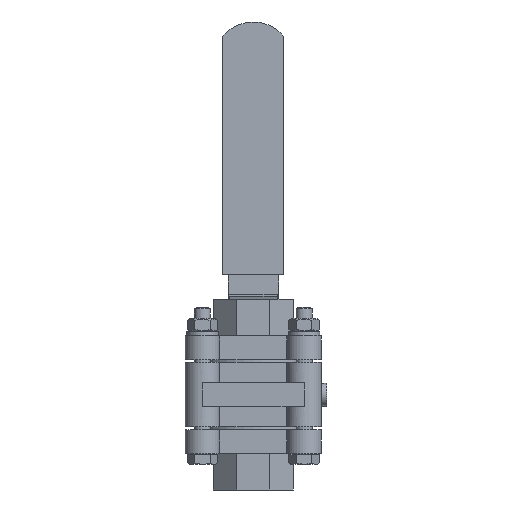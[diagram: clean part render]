
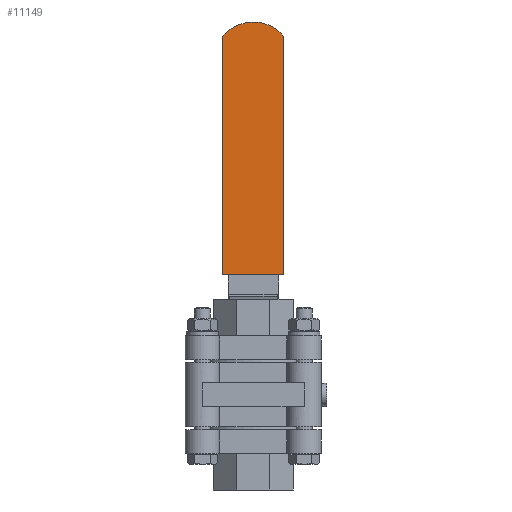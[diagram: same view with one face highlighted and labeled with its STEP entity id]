
A CAD part, front view. The second image highlights one B-rep face of the part: STEP entity #11149.
In plain terms, the highlighted planar face has unit normal (0, -1, 0).
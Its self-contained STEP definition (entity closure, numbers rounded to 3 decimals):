
#526=PLANE('',#11938);
#1166=FACE_OUTER_BOUND('',#1812,.T.);
#1812=EDGE_LOOP('',(#8307,#8308,#8309,#8310));
#2501=CIRCLE('',#11936,15.);
#3148=LINE('',#16863,#4096);
#3150=LINE('',#16867,#4098);
#3151=LINE('',#16868,#4099);
#4096=VECTOR('',#13621,10.);
#4098=VECTOR('',#13625,10.);
#4099=VECTOR('',#13626,10.);
#5073=VERTEX_POINT('',#16856);
#5074=VERTEX_POINT('',#16857);
#5075=VERTEX_POINT('',#16862);
#5076=VERTEX_POINT('',#16866);
#6296=EDGE_CURVE('',#5073,#5074,#2501,.T.);
#6299=EDGE_CURVE('',#5075,#5073,#3148,.T.);
#6301=EDGE_CURVE('',#5076,#5074,#3150,.T.);
#6302=EDGE_CURVE('',#5075,#5076,#3151,.T.);
#8307=ORIENTED_EDGE('',*,*,#6296,.T.);
#8308=ORIENTED_EDGE('',*,*,#6301,.F.);
#8309=ORIENTED_EDGE('',*,*,#6302,.F.);
#8310=ORIENTED_EDGE('',*,*,#6299,.T.);
#11149=ADVANCED_FACE('',(#1166),#526,.T.);
#11936=AXIS2_PLACEMENT_3D('',#16858,#13615,#13616);
#11938=AXIS2_PLACEMENT_3D('',#16865,#13623,#13624);
#13615=DIRECTION('center_axis',(0.,-1.,0.));
#13616=DIRECTION('ref_axis',(-0.767,0.,0.642));
#13621=DIRECTION('',(0.,0.,1.));
#13623=DIRECTION('center_axis',(0.,-1.,0.));
#13624=DIRECTION('ref_axis',(1.,0.,0.));
#13625=DIRECTION('',(0.,0.,1.));
#13626=DIRECTION('',(-1.,0.,0.));
#16856=CARTESIAN_POINT('',(11.732,53.376,134.631));
#16857=CARTESIAN_POINT('',(-11.268,53.376,134.631));
#16858=CARTESIAN_POINT('Origin',(0.232,53.376,125.));
#16862=CARTESIAN_POINT('',(11.732,53.376,45.));
#16863=CARTESIAN_POINT('',(11.732,53.376,45.));
#16865=CARTESIAN_POINT('Origin',(-11.268,53.376,45.));
#16866=CARTESIAN_POINT('',(-11.268,53.376,45.));
#16867=CARTESIAN_POINT('',(-11.268,53.376,45.));
#16868=CARTESIAN_POINT('',(11.732,53.376,45.));
